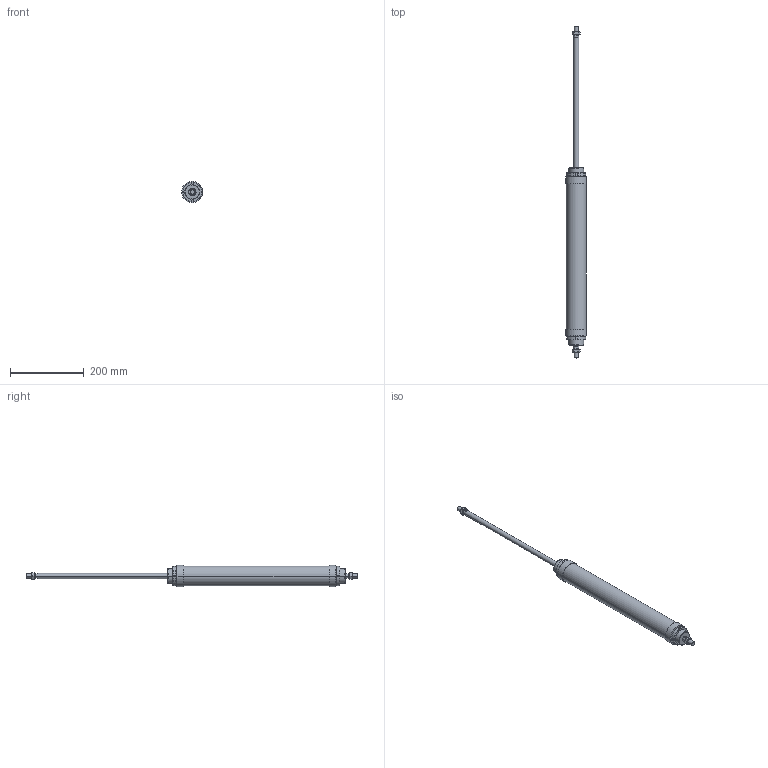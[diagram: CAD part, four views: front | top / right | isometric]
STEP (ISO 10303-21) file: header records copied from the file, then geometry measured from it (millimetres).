
FILE_DESCRIPTION((''),'2;1');
FILE_NAME('I:\DOC-EDP\Lib-3d\1200\CILINDRI\1262\1262_50_0350.stp','2003-04-02T19:16:52',('maffial1'),(''),'Autodesk Inventor (R) 6.0','Autodesk Inventor (R) 6.0','');
FILE_SCHEMA(('AUTOMOTIVE_DESIGN { 1 0 10303 214 1 1 1 1 }'));
Length unit declared in the file: millimetre
Products named in the file (5): 1262_50_0350; S1262_50_350; C1262_50_350; 1200_50_05; 1200_50_06
Assembly tree (6 placements, depth 2):
  1262_50_0350
    S1262_50_350
    C1262_50_350
    1200_50_05  x2
    1200_50_06  x2
Bounding box: 56.6 x 902 x 57.85 mm (x, y, z)
Volume: 1143076.9 mm3; surface area: 158139.6 mm2
Topology: 6 solids, 6 shells, 182 faces, 424 edges, 264 vertices
Faces by surface type: plane 66, cone 56, cylinder 30, bspline 30
Entity records: 3737 total; most frequent: CARTESIAN_POINT 969, DIRECTION 572, ORIENTED_EDGE 548, EDGE_CURVE 274, AXIS2_PLACEMENT_3D 227, VERTEX_POINT 172, EDGE_LOOP 136, FACE_OUTER_BOUND 120
